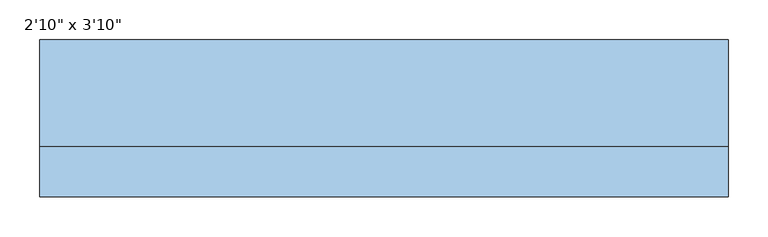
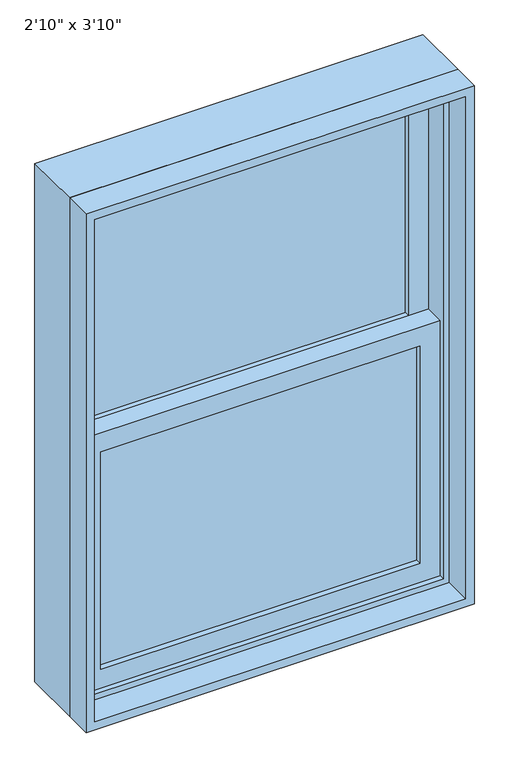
"""IFC4 building model written with IfcOpenShell, lengths in millimetres: window geometry."""

from ifc_helpers import new_model, si_unit, frame, origin, place, context, project, spatial, polyline, outline, extrude, source, transform, mapped, element, save


def window_33594941(model_context):
    return source(origin(), model_context, "Body", "SweptSolid", [
        extrude(outline(polyline([(355.6, 19.05), (355.6, 12.7), (-355.6, 12.7), (-355.6, 19.05), (355.6, 19.05)])), frame((0.0, 0.0, 990.6), z_axis=(0.0, 0.0, 1.0), x_axis=(1.0, 0.0, 0.0)), (0.0, 0.0, 1.0), 511.175),
        extrude(outline(polyline([(-355.6, 6.35), (355.6, 6.35), (355.6, 0.0), (-355.6, 0.0), (-355.6, 6.35)])), frame((0.0, 0.0, 990.6), z_axis=(0.0, 0.0, 1.0), x_axis=(1.0, 0.0, 0.0)), (0.0, 0.0, 1.0), 511.175),
        extrude(outline(polyline([(355.6, 63.5), (355.6, 57.15), (-355.6, 57.15), (-355.6, 63.5), (355.6, 63.5)])), frame((0.0, 0.0, 1546.225), z_axis=(0.0, 0.0, 1.0), x_axis=(1.0, 0.0, 0.0)), (0.0, 0.0, 1.0), 511.175),
        extrude(outline(polyline([(-355.6, 50.8), (355.6, 50.8), (355.6, 44.45), (-355.6, 44.45), (-355.6, 50.8)])), frame((0.0, 0.0, 1546.225), z_axis=(0.0, 0.0, 1.0), x_axis=(1.0, 0.0, 0.0)), (0.0, 0.0, 1.0), 511.175),
        extrude(outline(polyline([(1546.225, -400.05), (946.15, -400.05), (946.15, 400.05), (1546.225, 400.05), (1546.225, -400.05)]), holes=[polyline([(1501.775, 355.6), (990.6, 355.6), (990.6, -355.6), (1501.775, -355.6), (1501.775, 355.6)])]), frame((0.0, -12.7, 0.0), z_axis=(0.0, 1.0, 0.0), x_axis=(0.0, 0.0, 1.0)), (0.0, 0.0, 1.0), 44.45),
        extrude(outline(polyline([(2101.85, -400.05), (1501.775, -400.05), (1501.775, 400.05), (2101.85, 400.05), (2101.85, -400.05)]), holes=[polyline([(2057.4, 355.6), (1546.225, 355.6), (1546.225, -355.6), (2057.4, -355.6), (2057.4, 355.6)])]), frame((0.0, 31.75, 0.0), z_axis=(0.0, 1.0, 0.0), x_axis=(0.0, 0.0, 1.0)), (0.0, 0.0, 1.0), 44.45),
        extrude(outline(polyline([(2133.6, -431.8), (914.4, -431.8), (914.4, 431.8), (2133.6, 431.8), (2133.6, -431.8)]), holes=[polyline([(2101.85, 400.05), (946.15, 400.05), (946.15, -400.05), (2101.85, -400.05), (2101.85, 400.05)])]), frame((0.0, -25.4, 0.0), z_axis=(0.0, 1.0, 0.0), x_axis=(0.0, 0.0, 1.0)), (0.0, 0.0, 1.0), 133.35),
        extrude(outline(polyline([(2133.6, 431.8), (2133.6, -431.8), (914.4, -431.8), (914.4, 431.8), (2133.6, 431.8)]), holes=[polyline([(2114.55, 412.75), (933.45, 412.75), (933.45, -412.75), (2114.55, -412.75), (2114.55, 412.75)])]), frame((0.0, -88.9, 0.0), z_axis=(0.0, 1.0, 0.0), x_axis=(0.0, 0.0, 1.0)), (0.0, 0.0, 1.0), 63.5),
    ])


if __name__ == "__main__":
    model = new_model("IFC4")
    model_context = context("Model", 3, world=origin())
    ifc_project = project(units=[si_unit("LENGTHUNIT", "METRE", prefix="MILLI")], contexts=[model_context])
    site = spatial("IfcSite", under=ifc_project)
    building = spatial("IfcBuilding", under=site)
    placement = place(None, origin())
    window_shape = window_33594941(model_context)
    element("IfcWindow", 1, ObjectType="Planitar-Double-Hung-Single : 2'10\" x 3'10\"", at=placement, inside=building, context=model_context, shape_type="MappedRepresentation", body=[
        mapped(window_shape, transform((0.0, 0.0, 0.0), x_axis=(1.0, 0.0, 0.0), y_axis=(0.0, 1.0, 0.0), z_axis=(0.0, 0.0, 1.0))),
    ])
    save(model, "model.ifc")
